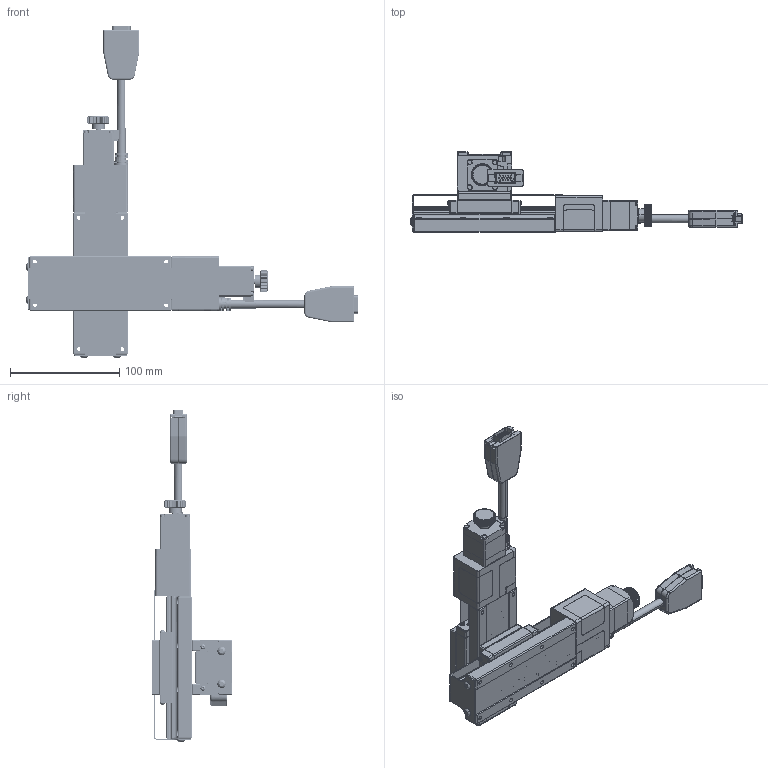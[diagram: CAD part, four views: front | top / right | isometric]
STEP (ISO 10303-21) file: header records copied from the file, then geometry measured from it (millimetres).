
FILE_DESCRIPTION (( 'STEP AP203' ), '1' );
FILE_NAME ('CYC5050-S2?N.STEP', '2023-10-02T01:49:17', ( '' ), ( '' ), 'SwSTEP 2.0', 'SolidWorks 2019', '' );
FILE_SCHEMA (( 'CONFIG_CONTROL_DESIGN' ));
Length unit declared in the file: millimetre
Products named in the file (5): Group1^CXC5050-S2_N(2023_s__)_defeature_GMT.STEP_GMT; CXC5050-S2?N.STEP; CYC5050-S2?N; Group2^CXC5050-S2_N(2023_s__)_defeature_GMT.STEP_GMT
Assembly tree (6 placements, depth 3):
  CYC5050-S2?N
    CXC5050-S2?N.STEP
      Group1^CXC5050-S2_N(2023_s__)_defeature_GMT.STEP_GMT
      Group2^CXC5050-S2_N(2023_s__)_defeature_GMT.STEP_GMT
    CXC5050-S2?N.STEP
      Group1^CXC5050-S2_N(2023_s__)_defeature_GMT.STEP_GMT
      Group2^CXC5050-S2_N(2023_s__)_defeature_GMT.STEP_GMT
Bounding box: 303.8 x 74 x 303.8 mm (x, y, z)
Surface area: 192111.9 mm2 (no closed solid volume)
Topology: 0 solids, 60 shells, 6562 faces, 17454 edges, 10838 vertices
Faces by surface type: plane 2982, cylinder 1966, torus 674, bspline 562, sphere 206, cone 172
Entity records: 127537 total; most frequent: CARTESIAN_POINT 60033, ORIENTED_EDGE 16888, DIRECTION 9131, EDGE_CURVE 8575, B_SPLINE_CURVE_WITH_KNOTS 6393, VERTEX_POINT 5413, AXIS2_PLACEMENT_3D 4051, EDGE_LOOP 3494
